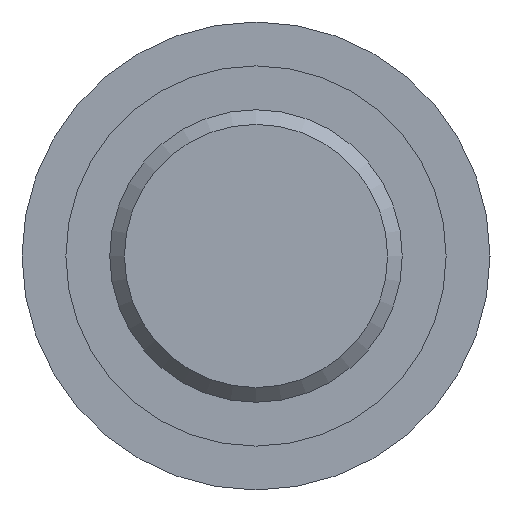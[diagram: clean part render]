
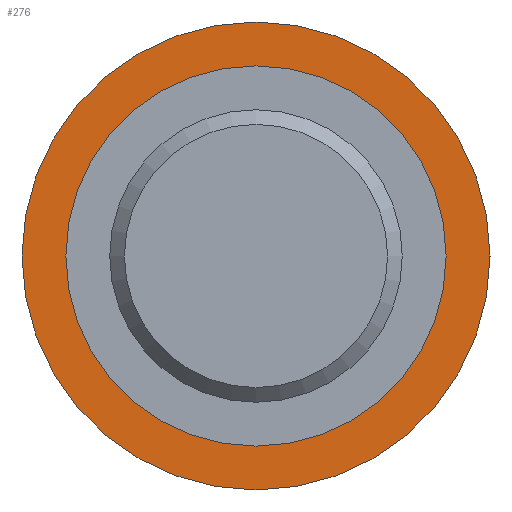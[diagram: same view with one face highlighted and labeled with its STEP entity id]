
A CAD part, left-side view. The second image highlights one B-rep face of the part: STEP entity #276.
In plain terms, the highlighted planar face has unit normal (-1, 0, 0).
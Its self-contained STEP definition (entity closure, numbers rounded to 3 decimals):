
#54=FACE_BOUND('',#101,.T.);
#73=FACE_OUTER_BOUND('',#100,.T.);
#100=EDGE_LOOP('',(#237));
#101=EDGE_LOOP('',(#238));
#125=CIRCLE('',#336,13.);
#126=CIRCLE('',#338,16.);
#147=VERTEX_POINT('',#506);
#148=VERTEX_POINT('',#510);
#177=EDGE_CURVE('',#147,#147,#125,.T.);
#179=EDGE_CURVE('',#148,#148,#126,.T.);
#237=ORIENTED_EDGE('',*,*,#179,.F.);
#238=ORIENTED_EDGE('',*,*,#177,.T.);
#257=PLANE('',#337);
#276=ADVANCED_FACE('',(#73,#54),#257,.T.);
#336=AXIS2_PLACEMENT_3D('',#507,#425,#426);
#337=AXIS2_PLACEMENT_3D('',#509,#428,#429);
#338=AXIS2_PLACEMENT_3D('',#511,#430,#431);
#425=DIRECTION('center_axis',(1.,0.,0.));
#426=DIRECTION('ref_axis',(0.,0.,-1.));
#428=DIRECTION('center_axis',(-1.,0.,0.));
#429=DIRECTION('ref_axis',(0.,0.,1.));
#430=DIRECTION('center_axis',(1.,0.,0.));
#431=DIRECTION('ref_axis',(0.,0.,-1.));
#506=CARTESIAN_POINT('',(22.,-13.,0.));
#507=CARTESIAN_POINT('Origin',(22.,0.,0.));
#509=CARTESIAN_POINT('Origin',(22.,16.,0.));
#510=CARTESIAN_POINT('',(22.,-16.,0.));
#511=CARTESIAN_POINT('Origin',(22.,0.,0.));
